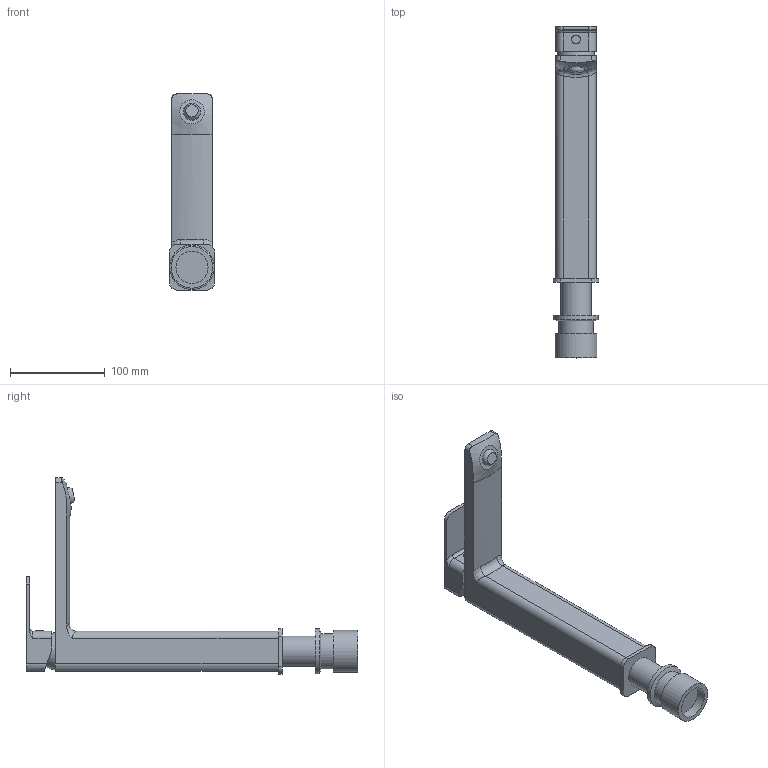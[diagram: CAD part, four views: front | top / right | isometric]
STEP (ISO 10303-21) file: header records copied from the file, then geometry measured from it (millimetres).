
FILE_DESCRIPTION(/* description */ ('LOFT Bateria umywalkowa stojąca wysoka (wys. 270 mm)'),/* implementation_level */ '2;1');
FILE_NAME(/* name */ 'C:\Nextcloud\02_biblioteki_cad\Valvex\Projekt\PROJECTS\Eksport\ETAP 1\2454730\2454730.stp',/* time_stamp */ '2021-06-17T15:39:30+02:00',/* author */ ('Cadventure'),/* organization */ (''),/* preprocessor_version */ 'ST-DEVELOPER v18.1',/* originating_system */ 'Autodesk Inventor 2020',/* authorisation */ '');
FILE_SCHEMA (('AUTOMOTIVE_DESIGN { 1 0 10303 214 3 1 1 }'));
Length unit declared in the file: millimetre
Products named in the file (1): 2454730
Bounding box: 48 x 350 x 206.75 mm (x, y, z)
Volume: 668278.8 mm3; surface area: 88004.1 mm2
Topology: 3 solids, 3 shells, 62 faces, 156 edges, 107 vertices
Faces by surface type: plane 29, cylinder 24, bspline 4, torus 3, sphere 1, cone 1
Full cylindrical faces by diameter (mm): 9 x1, 32 x1, 34 x1, 37 x1, 44 x1, 47 x1
Entity records: 4377 total; most frequent: CARTESIAN_POINT 2784, DIRECTION 329, ORIENTED_EDGE 310, EDGE_CURVE 155, AXIS2_PLACEMENT_3D 127, VERTEX_POINT 107, LINE 75, VECTOR 75
